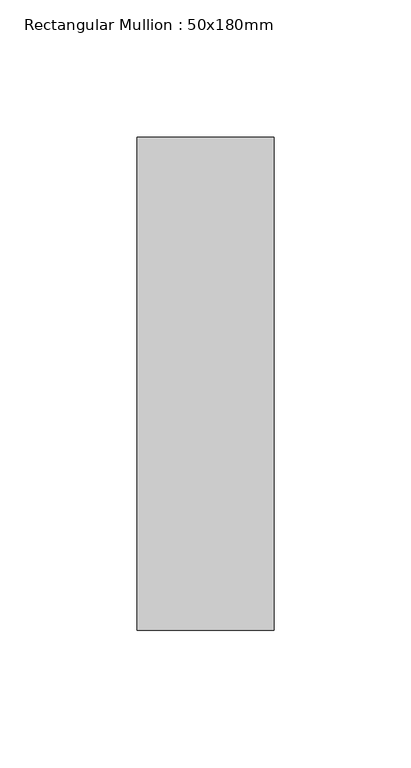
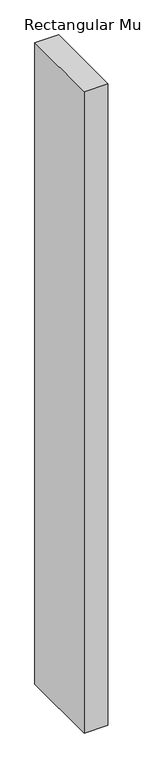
"""IFC4 building model written with IfcOpenShell, lengths in millimetres: member geometry, Rectangular Mullion : 50x180mm."""

from ifc_helpers import new_model, si_unit, frame, origin, place, context, project, spatial, polyline, outline, extrude, source, transform, mapped, element, save


def rectangular_mullion_50x180mm_84521c55(model_context):
    return source(origin(), model_context, "Body", "SweptSolid", [
        extrude(outline(polyline([(25.0, 90.0), (25.0, -90.0), (-25.0, -90.0), (-25.0, 90.0), (25.0, 90.0)])), frame((0.0, 0.0, -1432.8125002), z_axis=(0.0, 0.0, 1.0), x_axis=(1.0, 0.0, 0.0)), (0.0, 0.0, 1.0), 1432.8125002),
    ])


if __name__ == "__main__":
    model = new_model("IFC4")
    model_context = context("Model", 3, world=origin())
    ifc_project = project(units=[si_unit("LENGTHUNIT", "METRE", prefix="MILLI")], contexts=[model_context])
    site = spatial("IfcSite", under=ifc_project)
    building = spatial("IfcBuilding", under=site)
    placement = place(None, origin())
    rectangular_mullion_50x180mm_shape = rectangular_mullion_50x180mm_84521c55(model_context)
    element("IfcMember", 1, ObjectType="Rectangular Mullion : 50x180mm", at=placement, inside=building, context=model_context, shape_type="MappedRepresentation", body=[
        mapped(rectangular_mullion_50x180mm_shape, transform((0.0, 0.0, 0.0), x_axis=(1.0, 0.0, 0.0), y_axis=(0.0, 1.0, 0.0), z_axis=(0.0, 0.0, 1.0))),
    ])
    save(model, "model.ifc")
